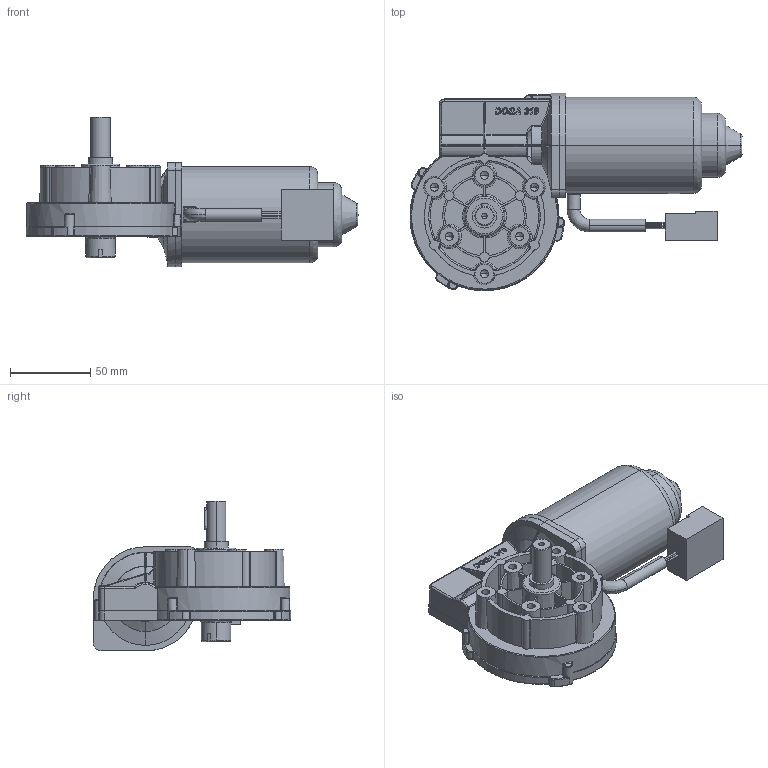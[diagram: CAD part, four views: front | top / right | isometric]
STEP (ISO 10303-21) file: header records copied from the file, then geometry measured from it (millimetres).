
FILE_DESCRIPTION (( 'STEP AP214' ), '1' );
FILE_NAME ('319.STEP', '2015-08-04T07:40:47', ( '' ), ( '' ), 'SwSTEP 2.0', 'SolidWorks 2014', '' );
FILE_SCHEMA (( 'AUTOMOTIVE_DESIGN' ));
Length unit declared in the file: millimetre
Products named in the file (1): 319
Bounding box: 207.05 x 123.09 x 93.5 mm (x, y, z)
Volume: 554964.5 mm3; surface area: 87476.1 mm2
Topology: 3 solids, 3 shells, 713 faces, 1876 edges, 1170 vertices
Faces by surface type: plane 238, bspline 219, cylinder 213, cone 43
Entity records: 31827 total; most frequent: CARTESIAN_POINT 15738, ORIENTED_EDGE 3680, DIRECTION 2810, EDGE_CURVE 1840, VERTEX_POINT 1169, AXIS2_PLACEMENT_3D 1029, EDGE_LOOP 757, LINE 752
